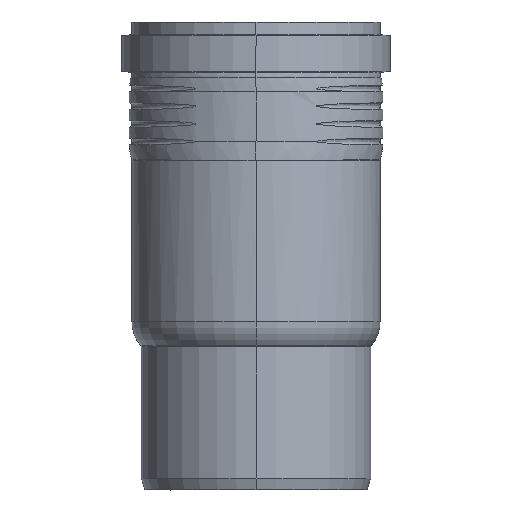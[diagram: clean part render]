
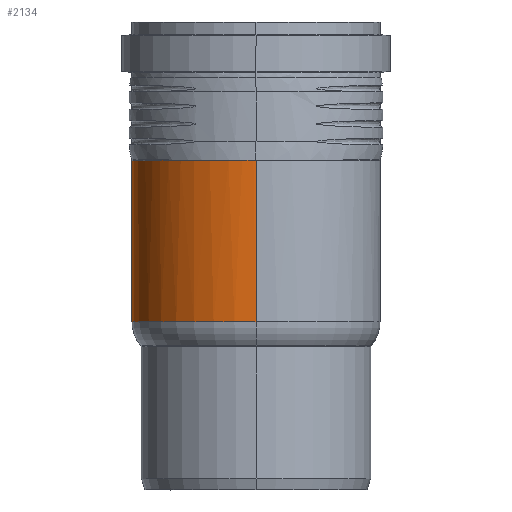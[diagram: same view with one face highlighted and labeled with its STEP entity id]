
A CAD part, left-side view. The second image highlights one B-rep face of the part: STEP entity #2134.
In plain terms, the highlighted free-form (B-spline) face has degree [5, 1] with [12, 2] control points.
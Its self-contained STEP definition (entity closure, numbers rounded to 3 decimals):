
#37=B_SPLINE_SURFACE_WITH_KNOTS('',5,1,((#8295,#8296),(#8297,#8298),(#8299,
#8300),(#8301,#8302),(#8303,#8304),(#8305,#8306),(#8307,#8308),(#8309,#8310),
(#8311,#8312),(#8313,#8314),(#8315,#8316),(#8317,#8318)),.UNSPECIFIED.,
 .F.,.F.,.F.,(6,3,3,6),(2,2),(0.,0.338,0.672,1.),(0.,1.),
 .UNSPECIFIED.);
#170=B_SPLINE_CURVE_WITH_KNOTS('',3,(#7784,#7785,#7786,#7787),
 .UNSPECIFIED.,.F.,.F.,(4,4),(0.986,1.),
 .UNSPECIFIED.);
#177=B_SPLINE_CURVE_WITH_KNOTS('',3,(#8261,#8262,#8263,#8264,#8265,#8266,
#8267,#8268,#8269,#8270,#8271,#8272,#8273,#8274,#8275,#8276,#8277,#8278,
#8279,#8280,#8281,#8282,#8283,#8284,#8285,#8286,#8287,#8288,#8289,#8290,
#8291,#8292,#8293,#8294),.UNSPECIFIED.,.F.,.F.,(4,3,3,3,3,3,3,3,3,3,3,4),
(0.,0.051,0.1,0.185,0.265,
0.361,0.461,0.581,0.754,
0.834,0.926,0.986),.UNSPECIFIED.);
#315=FACE_OUTER_BOUND('',#451,.T.);
#451=EDGE_LOOP('',(#1751,#1752,#1753,#1754,#1755,#1756));
#568=CIRCLE('',#2307,59.65);
#669=LINE('',#7789,#765);
#677=LINE('',#8320,#773);
#678=LINE('',#8323,#774);
#765=VECTOR('',#2685,0.104);
#773=VECTOR('',#2723,77.409);
#774=VECTOR('',#2726,77.528);
#921=VERTEX_POINT('',#7782);
#922=VERTEX_POINT('',#7783);
#923=VERTEX_POINT('',#7788);
#937=VERTEX_POINT('',#8259);
#938=VERTEX_POINT('',#8319);
#939=VERTEX_POINT('',#8321);
#1186=EDGE_CURVE('',#921,#922,#170,.T.);
#1187=EDGE_CURVE('',#922,#923,#669,.T.);
#1212=EDGE_CURVE('',#937,#921,#177,.T.);
#1213=EDGE_CURVE('',#937,#938,#677,.T.);
#1214=EDGE_CURVE('',#938,#939,#568,.T.);
#1215=EDGE_CURVE('',#923,#939,#678,.T.);
#1751=ORIENTED_EDGE('',*,*,#1212,.F.);
#1752=ORIENTED_EDGE('',*,*,#1213,.T.);
#1753=ORIENTED_EDGE('',*,*,#1214,.T.);
#1754=ORIENTED_EDGE('',*,*,#1215,.F.);
#1755=ORIENTED_EDGE('',*,*,#1187,.F.);
#1756=ORIENTED_EDGE('',*,*,#1186,.F.);
#2134=ADVANCED_FACE('',(#315),#37,.T.);
#2307=AXIS2_PLACEMENT_3D('',#8322,#2724,#2725);
#2685=DIRECTION('',(-0.001,-1.,0.));
#2723=DIRECTION('',(0.,0.,-1.));
#2724=DIRECTION('center_axis',(0.,0.,
1.));
#2725=DIRECTION('ref_axis',(0.,1.,0.));
#2726=DIRECTION('',(0.,0.,-1.));
#7782=CARTESIAN_POINT('',(-59.636,1.276,-66.497));
#7783=CARTESIAN_POINT('',(-59.65,0.104,-66.498));
#7784=CARTESIAN_POINT('Ctrl Pts',(-59.636,1.276,-66.499));
#7785=CARTESIAN_POINT('Ctrl Pts',(-59.645,0.89,-66.498));
#7786=CARTESIAN_POINT('Ctrl Pts',(-59.649,0.5,-66.498));
#7787=CARTESIAN_POINT('Ctrl Pts',(-59.65,0.104,-66.498));
#7788=CARTESIAN_POINT('',(-59.65,0.,-66.498));
#7789=CARTESIAN_POINT('',(-59.65,0.104,-66.498));
#8259=CARTESIAN_POINT('',(0.,59.65,-66.617));
#8261=CARTESIAN_POINT('Ctrl Pts',(0.,59.65,
-66.617));
#8262=CARTESIAN_POINT('Ctrl Pts',(-1.579,59.65,-66.617));
#8263=CARTESIAN_POINT('Ctrl Pts',(-3.802,59.566,-66.616));
#8264=CARTESIAN_POINT('Ctrl Pts',(-5.909,59.357,-66.616));
#8265=CARTESIAN_POINT('Ctrl Pts',(-7.932,59.155,-66.615));
#8266=CARTESIAN_POINT('Ctrl Pts',(-9.558,58.899,-66.614));
#8267=CARTESIAN_POINT('Ctrl Pts',(-11.061,58.616,-66.613));
#8268=CARTESIAN_POINT('Ctrl Pts',(-13.657,58.126,-66.611));
#8269=CARTESIAN_POINT('Ctrl Pts',(-16.603,57.374,-66.609));
#8270=CARTESIAN_POINT('Ctrl Pts',(-19.484,56.378,-66.606));
#8271=CARTESIAN_POINT('Ctrl Pts',(-22.198,55.441,-66.603));
#8272=CARTESIAN_POINT('Ctrl Pts',(-24.846,54.288,-66.599));
#8273=CARTESIAN_POINT('Ctrl Pts',(-27.104,53.137,-66.596));
#8274=CARTESIAN_POINT('Ctrl Pts',(-29.814,51.755,-66.591));
#8275=CARTESIAN_POINT('Ctrl Pts',(-31.896,50.455,-66.587));
#8276=CARTESIAN_POINT('Ctrl Pts',(-33.728,49.2,-66.584));
#8277=CARTESIAN_POINT('Ctrl Pts',(-35.635,47.892,-66.58));
#8278=CARTESIAN_POINT('Ctrl Pts',(-37.279,46.623,-66.576));
#8279=CARTESIAN_POINT('Ctrl Pts',(-39.015,45.122,-66.572));
#8280=CARTESIAN_POINT('Ctrl Pts',(-41.097,43.322,-66.567));
#8281=CARTESIAN_POINT('Ctrl Pts',(-43.536,40.94,-66.561));
#8282=CARTESIAN_POINT('Ctrl Pts',(-45.869,38.134,-66.554));
#8283=CARTESIAN_POINT('Ctrl Pts',(-49.229,34.093,-66.544));
#8284=CARTESIAN_POINT('Ctrl Pts',(-52.089,29.546,-66.534));
#8285=CARTESIAN_POINT('Ctrl Pts',(-54.284,24.725,-66.526));
#8286=CARTESIAN_POINT('Ctrl Pts',(-55.301,22.494,-66.522));
#8287=CARTESIAN_POINT('Ctrl Pts',(-56.482,19.479,-66.517));
#8288=CARTESIAN_POINT('Ctrl Pts',(-57.404,16.216,-66.513));
#8289=CARTESIAN_POINT('Ctrl Pts',(-58.466,12.456,-66.508));
#8290=CARTESIAN_POINT('Ctrl Pts',(-59.028,8.998,-66.504));
#8291=CARTESIAN_POINT('Ctrl Pts',(-59.313,6.335,-66.502));
#8292=CARTESIAN_POINT('Ctrl Pts',(-59.498,4.598,-66.5));
#8293=CARTESIAN_POINT('Ctrl Pts',(-59.6,2.975,-66.499));
#8294=CARTESIAN_POINT('Ctrl Pts',(-59.636,1.276,-66.499));
#8295=CARTESIAN_POINT('Ctrl Pts',(-59.65,0.,-66.498));
#8296=CARTESIAN_POINT('Ctrl Pts',(-59.65,0.,
-144.124));
#8297=CARTESIAN_POINT('Ctrl Pts',(-59.65,6.349,-66.498));
#8298=CARTESIAN_POINT('Ctrl Pts',(-59.65,6.349,-144.124));
#8299=CARTESIAN_POINT('Ctrl Pts',(-58.805,12.698,-66.495));
#8300=CARTESIAN_POINT('Ctrl Pts',(-58.805,12.698,-144.121));
#8301=CARTESIAN_POINT('Ctrl Pts',(-57.116,18.892,-66.49));
#8302=CARTESIAN_POINT('Ctrl Pts',(-57.116,18.892,-144.116));
#8303=CARTESIAN_POINT('Ctrl Pts',(-52.173,30.592,-66.474));
#8304=CARTESIAN_POINT('Ctrl Pts',(-52.173,30.592,-144.1));
#8305=CARTESIAN_POINT('Ctrl Pts',(-44.367,40.608,-66.454));
#8306=CARTESIAN_POINT('Ctrl Pts',(-44.367,40.608,-144.08));
#8307=CARTESIAN_POINT('Ctrl Pts',(-39.861,45.037,-66.443));
#8308=CARTESIAN_POINT('Ctrl Pts',(-39.861,45.037,-144.069));
#8309=CARTESIAN_POINT('Ctrl Pts',(-29.879,52.555,-66.423));
#8310=CARTESIAN_POINT('Ctrl Pts',(-29.879,52.555,-144.049));
#8311=CARTESIAN_POINT('Ctrl Pts',(-18.311,57.273,-66.408));
#8312=CARTESIAN_POINT('Ctrl Pts',(-18.311,57.273,-144.034));
#8313=CARTESIAN_POINT('Ctrl Pts',(-12.298,58.858,-66.403));
#8314=CARTESIAN_POINT('Ctrl Pts',(-12.298,58.858,-144.029));
#8315=CARTESIAN_POINT('Ctrl Pts',(-6.149,59.65,-66.4));
#8316=CARTESIAN_POINT('Ctrl Pts',(-6.149,59.65,-144.026));
#8317=CARTESIAN_POINT('Ctrl Pts',(0.,59.65,-66.4));
#8318=CARTESIAN_POINT('Ctrl Pts',(0.,59.65,-144.026));
#8319=CARTESIAN_POINT('',(0.,59.65,-144.026));
#8320=CARTESIAN_POINT('',(0.,59.65,-66.617));
#8321=CARTESIAN_POINT('',(-59.65,0.,-144.026));
#8322=CARTESIAN_POINT('Origin',(0.,0.,
-144.026));
#8323=CARTESIAN_POINT('',(-59.65,0.,-66.498));
